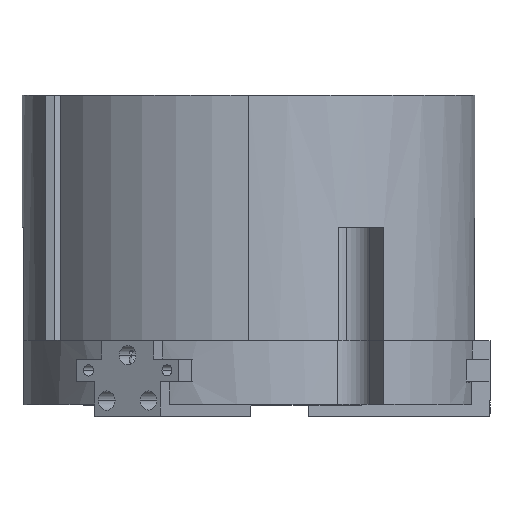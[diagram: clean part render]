
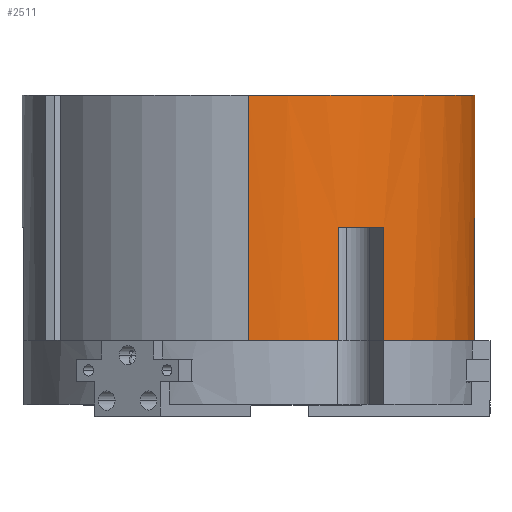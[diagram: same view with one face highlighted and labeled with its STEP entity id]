
A CAD part, top view. The second image highlights one B-rep face of the part: STEP entity #2511.
In plain terms, the highlighted cylindrical face has radius 47.625 mm (diameter 95.25 mm), a partial arc.
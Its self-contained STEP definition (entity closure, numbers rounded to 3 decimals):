
#88 = CIRCLE ( 'NONE', #5490, 47.625 ) ;
#172 = CARTESIAN_POINT ( 'NONE',  ( 18.838, -25.781, 43.741 ) ) ;
#179 = VECTOR ( 'NONE', #1678, 1000. ) ;
#296 = ORIENTED_EDGE ( 'NONE', *, *, #2662, .T. ) ;
#445 = VECTOR ( 'NONE', #1952, 1000. ) ;
#473 = VERTEX_POINT ( 'NONE', #172 ) ;
#522 = CARTESIAN_POINT ( 'NONE',  ( 18.838, -1.981, 43.741 ) ) ;
#613 = CARTESIAN_POINT ( 'NONE',  ( 0., -1.981, 0. ) ) ;
#638 = CARTESIAN_POINT ( 'NONE',  ( 0., 25.781, 47.625 ) ) ;
#648 = CARTESIAN_POINT ( 'NONE',  ( 28.462, -1.981, -38.185 ) ) ;
#824 = VERTEX_POINT ( 'NONE', #5904 ) ;
#944 = DIRECTION ( 'NONE',  ( 0., -1., 0. ) ) ;
#1011 = LINE ( 'NONE', #648, #5527 ) ;
#1183 = DIRECTION ( 'NONE',  ( 0.866, 0., 0.5 ) ) ;
#1201 = DIRECTION ( 'NONE',  ( 0., 1., 0. ) ) ;
#1218 = DIRECTION ( 'NONE',  ( 0., -1., 0. ) ) ;
#1361 = ORIENTED_EDGE ( 'NONE', *, *, #3803, .F. ) ;
#1504 = CARTESIAN_POINT ( 'NONE',  ( 18.838, -25.781, -43.741 ) ) ;
#1615 = VERTEX_POINT ( 'NONE', #522 ) ;
#1678 = DIRECTION ( 'NONE',  ( 0., -1., 0. ) ) ;
#1801 = DIRECTION ( 'NONE',  ( 0., -1., 0. ) ) ;
#1831 = DIRECTION ( 'NONE',  ( 0., -1., 0. ) ) ;
#1844 = ORIENTED_EDGE ( 'NONE', *, *, #7244, .T. ) ;
#1923 = EDGE_CURVE ( 'NONE', #6112, #4531, #1975, .T. ) ;
#1940 = CARTESIAN_POINT ( 'NONE',  ( 0., -25.781, 0. ) ) ;
#1952 = DIRECTION ( 'NONE',  ( 0., -1., 0. ) ) ;
#1975 = LINE ( 'NONE', #5503, #445 ) ;
#2075 = AXIS2_PLACEMENT_3D ( 'NONE', #6122, #2601, #6722 ) ;
#2108 = VERTEX_POINT ( 'NONE', #3733 ) ;
#2287 = VERTEX_POINT ( 'NONE', #2812 ) ;
#2454 = CARTESIAN_POINT ( 'NONE',  ( 0., 25.781, -47.625 ) ) ;
#2511 = ADVANCED_FACE ( 'NONE', ( #4397 ), #4202, .T. ) ;
#2539 = DIRECTION ( 'NONE',  ( 0., 0., 1. ) ) ;
#2563 = CARTESIAN_POINT ( 'NONE',  ( 0., -25.781, -47.625 ) ) ;
#2574 = ORIENTED_EDGE ( 'NONE', *, *, #5204, .T. ) ;
#2601 = DIRECTION ( 'NONE',  ( 0., 1., 0. ) ) ;
#2662 = EDGE_CURVE ( 'NONE', #2108, #2920, #6210, .T. ) ;
#2810 = VECTOR ( 'NONE', #3575, 1000. ) ;
#2812 = CARTESIAN_POINT ( 'NONE',  ( 28.462, -25.781, -38.185 ) ) ;
#2879 = CARTESIAN_POINT ( 'NONE',  ( 18.838, -1.981, 43.741 ) ) ;
#2920 = VERTEX_POINT ( 'NONE', #3007 ) ;
#3007 = CARTESIAN_POINT ( 'NONE',  ( 28.462, -25.781, 38.185 ) ) ;
#3013 = EDGE_CURVE ( 'NONE', #5844, #473, #7122, .T. ) ;
#3285 = CARTESIAN_POINT ( 'NONE',  ( 0., -25.781, 0. ) ) ;
#3575 = DIRECTION ( 'NONE',  ( 0., -1., 0. ) ) ;
#3733 = CARTESIAN_POINT ( 'NONE',  ( 28.462, -1.981, 38.185 ) ) ;
#3803 = EDGE_CURVE ( 'NONE', #4250, #2287, #1011, .T. ) ;
#3870 = CARTESIAN_POINT ( 'NONE',  ( 0., -25.781, 47.625 ) ) ;
#3882 = ORIENTED_EDGE ( 'NONE', *, *, #6491, .F. ) ;
#3883 = DIRECTION ( 'NONE',  ( 0., 0., 1. ) ) ;
#3971 = CIRCLE ( 'NONE', #5249, 47.625 ) ;
#3981 = VERTEX_POINT ( 'NONE', #2563 ) ;
#4122 = CARTESIAN_POINT ( 'NONE',  ( 18.838, -1.981, -43.741 ) ) ;
#4202 = CYLINDRICAL_SURFACE ( 'NONE', #4529, 47.625 ) ;
#4243 = ORIENTED_EDGE ( 'NONE', *, *, #6941, .F. ) ;
#4250 = VERTEX_POINT ( 'NONE', #5183 ) ;
#4340 = CIRCLE ( 'NONE', #2075, 47.625 ) ;
#4397 = FACE_OUTER_BOUND ( 'NONE', #5019, .T. ) ;
#4498 = CARTESIAN_POINT ( 'NONE',  ( 0., -1.981, 0. ) ) ;
#4529 = AXIS2_PLACEMENT_3D ( 'NONE', #5954, #1218, #6537 ) ;
#4531 = VERTEX_POINT ( 'NONE', #1504 ) ;
#4538 = ORIENTED_EDGE ( 'NONE', *, *, #6124, .F. ) ;
#4667 = VECTOR ( 'NONE', #7278, 1000. ) ;
#4744 = DIRECTION ( 'NONE',  ( 0., -1., 0. ) ) ;
#4765 = CARTESIAN_POINT ( 'NONE',  ( 0., 25.781, 0. ) ) ;
#4867 = CIRCLE ( 'NONE', #6429, 47.625 ) ;
#4898 = ORIENTED_EDGE ( 'NONE', *, *, #1923, .T. ) ;
#5019 = EDGE_LOOP ( 'NONE', ( #5096, #1844, #6433, #3882, #4243, #296, #2574, #1361, #4538, #4898, #5439, #7174 ) ) ;
#5087 = DIRECTION ( 'NONE',  ( -0.866, 0., 0.5 ) ) ;
#5096 = ORIENTED_EDGE ( 'NONE', *, *, #7232, .F. ) ;
#5116 = EDGE_CURVE ( 'NONE', #4531, #3981, #4340, .T. ) ;
#5183 = CARTESIAN_POINT ( 'NONE',  ( 28.462, -1.981, -38.185 ) ) ;
#5195 = VERTEX_POINT ( 'NONE', #6768 ) ;
#5204 = EDGE_CURVE ( 'NONE', #2920, #2287, #3971, .T. ) ;
#5249 = AXIS2_PLACEMENT_3D ( 'NONE', #3285, #7383, #3883 ) ;
#5359 = DIRECTION ( 'NONE',  ( 0., 0., 1. ) ) ;
#5439 = ORIENTED_EDGE ( 'NONE', *, *, #5116, .T. ) ;
#5490 = AXIS2_PLACEMENT_3D ( 'NONE', #4765, #1201, #5359 ) ;
#5503 = CARTESIAN_POINT ( 'NONE',  ( 18.838, -1.981, -43.741 ) ) ;
#5516 = VECTOR ( 'NONE', #1831, 1000. ) ;
#5519 = CARTESIAN_POINT ( 'NONE',  ( 28.462, -1.981, 38.185 ) ) ;
#5527 = VECTOR ( 'NONE', #1801, 1000. ) ;
#5597 = EDGE_CURVE ( 'NONE', #824, #3981, #7247, .T. ) ;
#5844 = VERTEX_POINT ( 'NONE', #3870 ) ;
#5904 = CARTESIAN_POINT ( 'NONE',  ( 0., 25.781, -47.625 ) ) ;
#5951 = LINE ( 'NONE', #638, #2810 ) ;
#5954 = CARTESIAN_POINT ( 'NONE',  ( 0., 25.781, 0. ) ) ;
#5987 = AXIS2_PLACEMENT_3D ( 'NONE', #613, #4744, #1183 ) ;
#6074 = DIRECTION ( 'NONE',  ( 0., 1., 0. ) ) ;
#6112 = VERTEX_POINT ( 'NONE', #4122 ) ;
#6122 = CARTESIAN_POINT ( 'NONE',  ( 0., -25.781, 0. ) ) ;
#6124 = EDGE_CURVE ( 'NONE', #6112, #4250, #6883, .T. ) ;
#6210 = LINE ( 'NONE', #5519, #4667 ) ;
#6239 = LINE ( 'NONE', #2879, #179 ) ;
#6429 = AXIS2_PLACEMENT_3D ( 'NONE', #4498, #944, #5087 ) ;
#6433 = ORIENTED_EDGE ( 'NONE', *, *, #3013, .T. ) ;
#6491 = EDGE_CURVE ( 'NONE', #1615, #473, #6239, .T. ) ;
#6537 = DIRECTION ( 'NONE',  ( 0., 0., -1. ) ) ;
#6722 = DIRECTION ( 'NONE',  ( 0., 0., 1. ) ) ;
#6768 = CARTESIAN_POINT ( 'NONE',  ( 0., 25.781, 47.625 ) ) ;
#6883 = CIRCLE ( 'NONE', #5987, 47.625 ) ;
#6941 = EDGE_CURVE ( 'NONE', #2108, #1615, #4867, .T. ) ;
#7114 = AXIS2_PLACEMENT_3D ( 'NONE', #1940, #6074, #2539 ) ;
#7122 = CIRCLE ( 'NONE', #7114, 47.625 ) ;
#7174 = ORIENTED_EDGE ( 'NONE', *, *, #5597, .F. ) ;
#7232 = EDGE_CURVE ( 'NONE', #5195, #824, #88, .T. ) ;
#7244 = EDGE_CURVE ( 'NONE', #5195, #5844, #5951, .T. ) ;
#7247 = LINE ( 'NONE', #2454, #5516 ) ;
#7278 = DIRECTION ( 'NONE',  ( 0., -1., 0. ) ) ;
#7383 = DIRECTION ( 'NONE',  ( 0., 1., 0. ) ) ;
